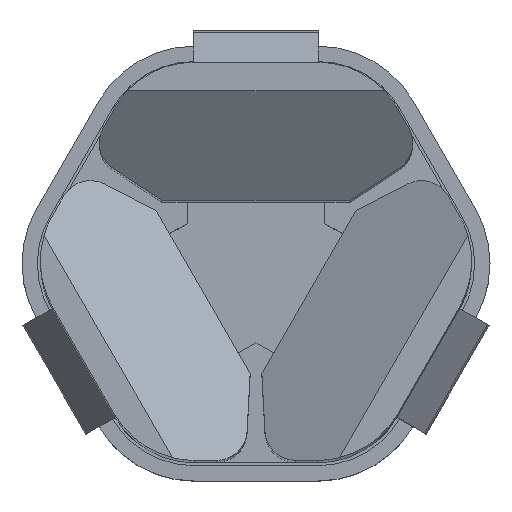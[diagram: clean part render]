
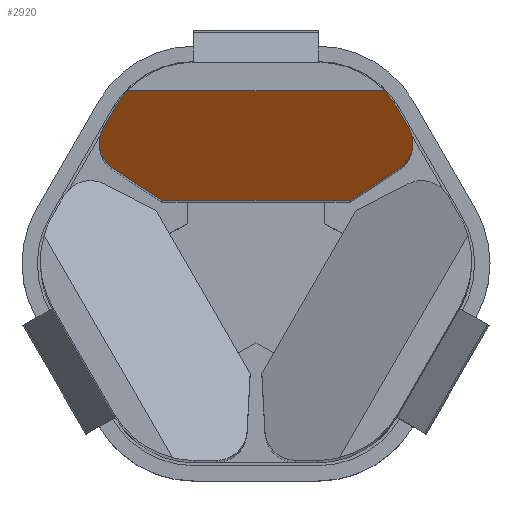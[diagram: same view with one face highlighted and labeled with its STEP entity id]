
A CAD part, top view. The second image highlights one B-rep face of the part: STEP entity #2920.
In plain terms, the highlighted planar face has unit normal (0, -0.574, 0.819).
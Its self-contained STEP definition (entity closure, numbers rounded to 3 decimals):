
#65=ELLIPSE('',#3175,7.325,6.);
#66=ELLIPSE('',#3178,2.442,2.);
#67=ELLIPSE('',#3184,2.442,2.);
#68=ELLIPSE('',#3190,7.325,6.);
#141=PLANE('',#3191);
#287=FACE_OUTER_BOUND('',#464,.T.);
#464=EDGE_LOOP('',(#2440,#2441,#2442,#2443,#2444,#2445,#2446,#2447,#2448,
#2449));
#710=LINE('',#4705,#1002);
#717=LINE('',#4725,#1009);
#721=LINE('',#4736,#1013);
#722=LINE('',#4737,#1014);
#723=LINE('',#4739,#1015);
#724=LINE('',#4740,#1016);
#1002=VECTOR('',#3829,10.);
#1009=VECTOR('',#3848,10.);
#1013=VECTOR('',#3862,10.);
#1014=VECTOR('',#3863,10.);
#1015=VECTOR('',#3864,10.);
#1016=VECTOR('',#3865,10.);
#1393=VERTEX_POINT('',#4686);
#1394=VERTEX_POINT('',#4688);
#1395=VERTEX_POINT('',#4692);
#1396=VERTEX_POINT('',#4693);
#1400=VERTEX_POINT('',#4703);
#1402=VERTEX_POINT('',#4712);
#1403=VERTEX_POINT('',#4713);
#1407=VERTEX_POINT('',#4723);
#1409=VERTEX_POINT('',#4732);
#1410=VERTEX_POINT('',#4738);
#1752=EDGE_CURVE('',#1393,#1394,#65,.T.);
#1754=EDGE_CURVE('',#1395,#1396,#66,.T.);
#1760=EDGE_CURVE('',#1395,#1400,#710,.T.);
#1764=EDGE_CURVE('',#1402,#1403,#67,.T.);
#1770=EDGE_CURVE('',#1402,#1407,#717,.T.);
#1775=EDGE_CURVE('',#1409,#1400,#68,.T.);
#1776=EDGE_CURVE('',#1409,#1394,#721,.T.);
#1777=EDGE_CURVE('',#1393,#1403,#722,.T.);
#1778=EDGE_CURVE('',#1407,#1410,#723,.T.);
#1779=EDGE_CURVE('',#1410,#1396,#724,.T.);
#2440=ORIENTED_EDGE('',*,*,#1754,.F.);
#2441=ORIENTED_EDGE('',*,*,#1760,.T.);
#2442=ORIENTED_EDGE('',*,*,#1775,.F.);
#2443=ORIENTED_EDGE('',*,*,#1776,.T.);
#2444=ORIENTED_EDGE('',*,*,#1752,.F.);
#2445=ORIENTED_EDGE('',*,*,#1777,.T.);
#2446=ORIENTED_EDGE('',*,*,#1764,.F.);
#2447=ORIENTED_EDGE('',*,*,#1770,.T.);
#2448=ORIENTED_EDGE('',*,*,#1778,.T.);
#2449=ORIENTED_EDGE('',*,*,#1779,.T.);
#2920=ADVANCED_FACE('',(#287),#141,.T.);
#3175=AXIS2_PLACEMENT_3D('',#4689,#3813,#3814);
#3178=AXIS2_PLACEMENT_3D('',#4694,#3819,#3820);
#3184=AXIS2_PLACEMENT_3D('',#4714,#3838,#3839);
#3190=AXIS2_PLACEMENT_3D('',#4734,#3858,#3859);
#3191=AXIS2_PLACEMENT_3D('',#4735,#3860,#3861);
#3813=DIRECTION('center_axis',(0.,0.574,-0.819));
#3814=DIRECTION('ref_axis',(0.,0.819,0.574));
#3819=DIRECTION('center_axis',(0.,0.574,-0.819));
#3820=DIRECTION('ref_axis',(0.,-0.819,-0.574));
#3829=DIRECTION('',(-0.428,0.741,0.519));
#3838=DIRECTION('center_axis',(0.,0.574,-0.819));
#3839=DIRECTION('ref_axis',(0.,-0.819,-0.574));
#3848=DIRECTION('',(0.784,-0.509,-0.356));
#3858=DIRECTION('center_axis',(0.,0.574,-0.819));
#3859=DIRECTION('ref_axis',(0.,0.819,0.574));
#3860=DIRECTION('center_axis',(0.,-0.574,
0.819));
#3861=DIRECTION('ref_axis',(-0.428,-0.741,-0.519));
#3862=DIRECTION('',(-1.,0.,0.));
#3863=DIRECTION('',(-0.428,-0.741,-0.519));
#3864=DIRECTION('',(1.,0.,0.));
#3865=DIRECTION('',(0.784,0.509,0.356));
#4686=CARTESIAN_POINT('',(-9.232,9.99,89.001));
#4688=CARTESIAN_POINT('',(-8.378,11.131,89.8));
#4689=CARTESIAN_POINT('Origin',(-4.036,6.99,86.901));
#4692=CARTESIAN_POINT('',(9.961,8.728,88.118));
#4693=CARTESIAN_POINT('',(9.318,6.051,86.243));
#4694=CARTESIAN_POINT('Origin',(8.229,7.728,87.417));
#4703=CARTESIAN_POINT('',(9.232,9.99,89.001));
#4705=CARTESIAN_POINT('',(18.197,-5.538,78.128));
#4712=CARTESIAN_POINT('',(-9.318,6.051,86.243));
#4713=CARTESIAN_POINT('',(-9.961,8.728,88.118));
#4714=CARTESIAN_POINT('Origin',(-8.229,7.728,87.417));
#4723=CARTESIAN_POINT('',(-6.145,3.99,84.8));
#4725=CARTESIAN_POINT('',(2.547,-1.654,80.848));
#4732=CARTESIAN_POINT('',(8.378,11.131,89.8));
#4734=CARTESIAN_POINT('Origin',(4.036,6.99,86.901));
#4735=CARTESIAN_POINT('Origin',(-1.709,7.561,87.3));
#4736=CARTESIAN_POINT('',(-1.709,11.131,89.8));
#4737=CARTESIAN_POINT('',(-17.263,-3.92,79.261));
#4738=CARTESIAN_POINT('',(6.145,3.99,84.8));
#4739=CARTESIAN_POINT('',(-1.709,3.99,84.8));
#4740=CARTESIAN_POINT('',(-8.359,-5.428,78.205));
